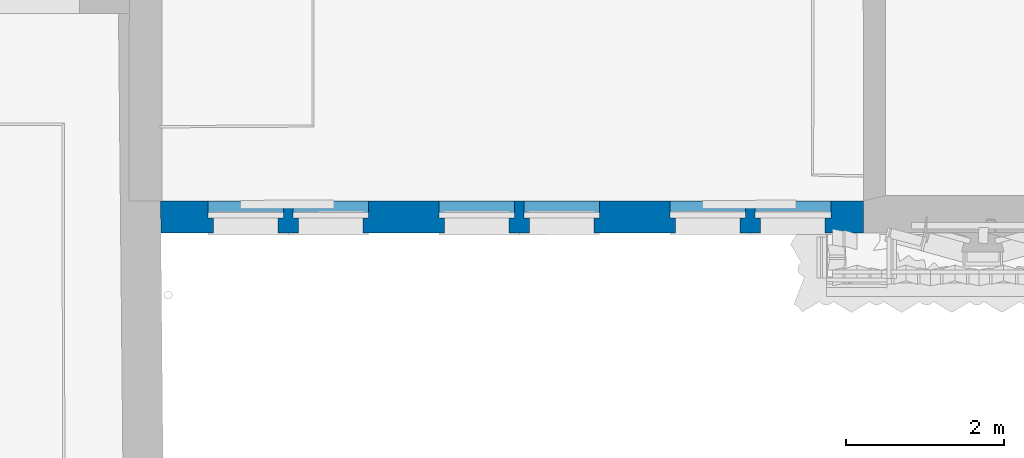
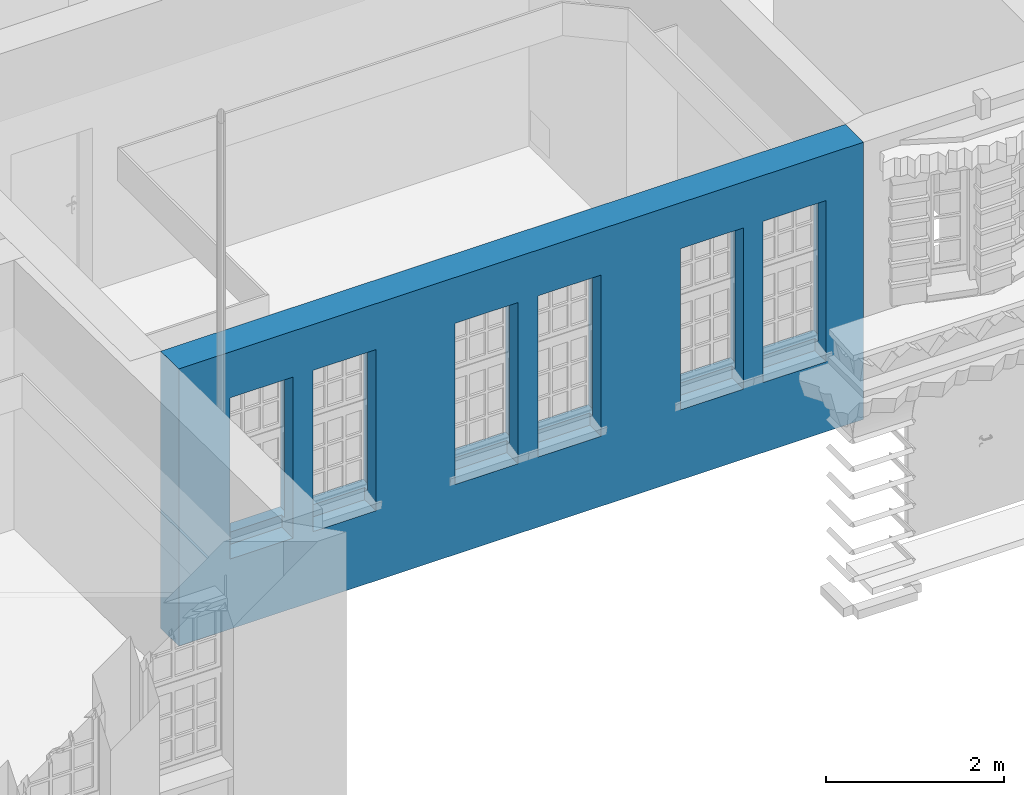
# One storey, part 19 of 158: 1 wall, 9 openings.
"""IFC2X3 building model written with IfcOpenShell, lengths in metres."""

from ifc_helpers import new_model, entity, si_unit, converted_unit, derived_unit, money_unit, direction, frame, origin_with_axes, origin_2d_with_axis, place, context, subcontext, project, spatial, polyline, rectangle, outline, extrude, material, layer, layer_set, layer_usage, type_object, element, save


model = new_model("IFC2X3")

# Units and contexts
model_context = context("Model", 3, precision=1e-05, world=origin_with_axes(), true_north=direction((0.0, 1.0)))
body_context = subcontext(model_context, "Body", "Model", "MODEL_VIEW")
ifc_project = project(units=[si_unit("LENGTHUNIT", "METRE"), si_unit("AREAUNIT", "SQUARE_METRE"), si_unit("VOLUMEUNIT", "CUBIC_METRE"), converted_unit("PLANEANGLEUNIT", "DEGREE", entity("IfcPlaneAngleMeasure", 0.0174532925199), si_unit("PLANEANGLEUNIT", "RADIAN"), dimensions=[0, 0, 0, 0, 0, 0, 0]), money_unit("EUR"), converted_unit("TIMEUNIT", "Year", entity("IfcTimeMeasure", 31556926.0), si_unit("TIMEUNIT", "SECOND"), dimensions=[0, 0, 1, 0, 0, 0, 0]), si_unit("MASSUNIT", "GRAM", prefix="KILO"), si_unit("THERMODYNAMICTEMPERATUREUNIT", "DEGREE_CELSIUS"), si_unit("LUMINOUSINTENSITYUNIT", "LUMEN"), si_unit("ENERGYUNIT", "JOULE", prefix="MEGA"), derived_unit("THERMALCONDUCTANCEUNIT", [(si_unit("POWERUNIT", "WATT"), 1), (si_unit("LENGTHUNIT", "METRE"), -1), (si_unit("THERMODYNAMICTEMPERATUREUNIT", "KELVIN"), -1)]), derived_unit("SPECIFICHEATCAPACITYUNIT", [(si_unit("ENERGYUNIT", "JOULE"), 1), (si_unit("MASSUNIT", "GRAM", prefix="KILO"), -1), (si_unit("THERMODYNAMICTEMPERATUREUNIT", "KELVIN"), -1)]), derived_unit("MASSDENSITYUNIT", [(si_unit("MASSUNIT", "GRAM", prefix="KILO"), 1), (si_unit("VOLUMEUNIT", "CUBIC_METRE"), -1)])], contexts=[model_context])

# Site, building, storey
site_placement = place(None, origin_with_axes())
site = spatial("IfcSite", under=ifc_project, at=site_placement, Name="Gelände", CompositionType="ELEMENT")
building_placement = place(site_placement, origin_with_axes())
building = spatial("IfcBuilding", under=site, at=building_placement, Name="Gebäude", CompositionType="ELEMENT")
storey_placement = place(building_placement, origin_with_axes())
storey = spatial("IfcBuildingStorey", under=building, at=storey_placement, Name="ERDGESCHOSS", CompositionType="ELEMENT", Elevation=0.0)

# Wall, openings
ifc_material = material(Name="05_ALLGEMEIN - TRAGENDE BAUTEILE")
ifc_layer = layer(ifc_material, 0.405, ventilated="UNKNOWN")
ifc_layer_set = layer_set([ifc_layer], Name="05_ALLGEMEIN - TRAGENDE BAUTEILE 0.405")
ifc_layer_usage = layer_usage(ifc_layer_set, "AXIS2", "NEGATIVE", 0.405)
wall_type = type_object("IfcWallType", Name="05_ALLGEMEIN - TRAGENDE BAUTEILE 405", PredefinedType="ELEMENTEDWALL")
wall_placement = place(storey_placement, frame((-17.7913715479, 9.99397282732, -0.21), z_axis=(0.0, 0.0, 1.0), x_axis=(0.999999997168, 7.52624069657e-05, 0.0)))
wall = element("IfcWallStandardCase", 1, at=wall_placement, inside=storey, type_object=wall_type, material=ifc_layer_usage, Name="Wand-030", ObjectType="ELEMENTEDWALL", context=body_context, shape_type="SweptSolid", body=[
    extrude(outline(polyline([(0.0, 0.0), (8.90085158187, 0.0), (8.90085158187, 0.405), (-0.00390621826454, 0.405), (0.0, 0.0)])), origin_with_axes(), (0.0, 0.0, 1.0), 3.81),
])
opening_1_placement = place(wall_placement, frame((4.52949266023, 0.0, 0.13), z_axis=(0.0, 0.0, 1.0), x_axis=(1.0, 0.0, 0.0)))
element("IfcOpeningElement", 2, at=opening_1_placement, cuts=wall, Name="Fenster-016", ObjectType="Recess", context=body_context, shape_type="SweptSolid", body=[
    extrude(rectangle(XDim=2.10960808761, YDim=0.982873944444, at=origin_2d_with_axis()), frame((0.0, 0.271136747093, 0.491436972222), z_axis=(0.0, -1.0, 0.0), x_axis=(1.0, 0.0, 0.0)), (0.0, 0.0, -1.0), 0.538863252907),
])
opening_2_placement = place(wall_placement, frame((1.59805779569, 0.0, 0.13), z_axis=(0.0, 0.0, 1.0), x_axis=(1.0, 0.0, 0.0)))
element("IfcOpeningElement", 3, at=opening_2_placement, cuts=wall, Name="Fenster-016", ObjectType="Recess", context=body_context, shape_type="SweptSolid", body=[
    extrude(rectangle(XDim=2.10960808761, YDim=0.982873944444, at=origin_2d_with_axis()), frame((0.0, 0.271136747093, 0.491436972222), z_axis=(0.0, -1.0, 0.0), x_axis=(1.0, 0.0, 0.0)), (0.0, 0.0, -1.0), 0.538863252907),
])
opening_3_placement = place(wall_placement, frame((7.46257531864, 0.0, 0.13), z_axis=(0.0, 0.0, 1.0), x_axis=(1.0, 0.0, 0.0)))
element("IfcOpeningElement", 4, at=opening_3_placement, cuts=wall, Name="Fenster-016", ObjectType="Recess", context=body_context, shape_type="SweptSolid", body=[
    extrude(rectangle(XDim=2.10488424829, YDim=0.982873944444, at=origin_2d_with_axis()), frame((0.0, 0.271136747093, 0.491436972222), z_axis=(0.0, -1.0, 0.0), x_axis=(1.0, 0.0, 0.0)), (0.0, 0.0, -1.0), 0.538863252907),
])
opening_4_placement = place(wall_placement, frame((8.00687162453, 0.0, 1.1302125), z_axis=(0.0, 0.0, 1.0), x_axis=(1.0, 0.0, 0.0)))
element("IfcOpeningElement", 5, at=opening_4_placement, cuts=wall, Name="Fenster-015", context=body_context, shape_type="SweptSolid", body=[
    extrude(rectangle(XDim=0.96, YDim=2.118657, at=origin_2d_with_axis()), frame((0.0, 0.19, 1.0593285), z_axis=(0.0, 1.0, 0.0), x_axis=(-1.0, 0.0, 0.0)), (0.0, 0.0, 1.0), 0.62),
    extrude(rectangle(XDim=0.82, YDim=2.048657, at=origin_2d_with_axis()), frame((0.0, 0.19, 1.0243285), z_axis=(0.0, -1.0, 0.0), x_axis=(-1.0, 0.0, 0.0)), (0.0, 0.0, 1.0), 0.595),
    extrude(rectangle(XDim=0.82, YDim=0.167317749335, at=origin_2d_with_axis()), frame((0.0, 0.251042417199, -0.0836588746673), z_axis=(0.0, -1.0, 0.0), x_axis=(-1.0, 0.0, 0.0)), (0.0, 0.0, 1.0), 0.466042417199),
])
opening_5_placement = place(wall_placement, frame((6.92935135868, 0.0, 1.1302125), z_axis=(0.0, 0.0, 1.0), x_axis=(1.0, 0.0, 0.0)))
element("IfcOpeningElement", 6, at=opening_5_placement, cuts=wall, Name="Fenster-015", context=body_context, shape_type="SweptSolid", body=[
    extrude(rectangle(XDim=0.96, YDim=2.118657, at=origin_2d_with_axis()), frame((0.0, 0.19, 1.0593285), z_axis=(0.0, 1.0, 0.0), x_axis=(-1.0, 0.0, 0.0)), (0.0, 0.0, 1.0), 0.62),
    extrude(rectangle(XDim=0.82, YDim=2.048657, at=origin_2d_with_axis()), frame((0.0, 0.19, 1.0243285), z_axis=(0.0, -1.0, 0.0), x_axis=(-1.0, 0.0, 0.0)), (0.0, 0.0, 1.0), 0.595),
    extrude(rectangle(XDim=0.82, YDim=0.167317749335, at=origin_2d_with_axis()), frame((0.0, 0.251042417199, -0.0836588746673), z_axis=(0.0, -1.0, 0.0), x_axis=(-1.0, 0.0, 0.0)), (0.0, 0.0, 1.0), 0.466042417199),
])
opening_6_placement = place(wall_placement, frame((5.07817990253, 0.0, 1.1302125), z_axis=(0.0, 0.0, 1.0), x_axis=(1.0, 0.0, 0.0)))
element("IfcOpeningElement", 7, at=opening_6_placement, cuts=wall, Name="Fenster-015", context=body_context, shape_type="SweptSolid", body=[
    extrude(rectangle(XDim=0.96, YDim=2.118657, at=origin_2d_with_axis()), frame((0.0, 0.19, 1.0593285), z_axis=(0.0, 1.0, 0.0), x_axis=(-1.0, 0.0, 0.0)), (0.0, 0.0, 1.0), 0.62),
    extrude(rectangle(XDim=0.82, YDim=2.048657, at=origin_2d_with_axis()), frame((0.0, 0.19, 1.0243285), z_axis=(0.0, -1.0, 0.0), x_axis=(-1.0, 0.0, 0.0)), (0.0, 0.0, 1.0), 0.595),
    extrude(rectangle(XDim=0.82, YDim=0.167317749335, at=origin_2d_with_axis()), frame((0.0, 0.251042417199, -0.0836588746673), z_axis=(0.0, -1.0, 0.0), x_axis=(-1.0, 0.0, 0.0)), (0.0, 0.0, 1.0), 0.466042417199),
])
opening_7_placement = place(wall_placement, frame((4.00065963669, 0.0, 1.1302125), z_axis=(0.0, 0.0, 1.0), x_axis=(1.0, 0.0, 0.0)))
element("IfcOpeningElement", 8, at=opening_7_placement, cuts=wall, Name="Fenster-015", context=body_context, shape_type="SweptSolid", body=[
    extrude(rectangle(XDim=0.96, YDim=2.118657, at=origin_2d_with_axis()), frame((0.0, 0.19, 1.0593285), z_axis=(0.0, 1.0, 0.0), x_axis=(-1.0, 0.0, 0.0)), (0.0, 0.0, 1.0), 0.62),
    extrude(rectangle(XDim=0.82, YDim=2.048657, at=origin_2d_with_axis()), frame((0.0, 0.19, 1.0243285), z_axis=(0.0, -1.0, 0.0), x_axis=(-1.0, 0.0, 0.0)), (0.0, 0.0, 1.0), 0.595),
    extrude(rectangle(XDim=0.82, YDim=0.167317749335, at=origin_2d_with_axis()), frame((0.0, 0.251042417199, -0.0836588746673), z_axis=(0.0, -1.0, 0.0), x_axis=(-1.0, 0.0, 0.0)), (0.0, 0.0, 1.0), 0.466042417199),
])
opening_8_placement = place(wall_placement, frame((2.15187055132, 0.0, 1.1302125), z_axis=(0.0, 0.0, 1.0), x_axis=(1.0, 0.0, 0.0)))
element("IfcOpeningElement", 9, at=opening_8_placement, cuts=wall, Name="Fenster-015", context=body_context, shape_type="SweptSolid", body=[
    extrude(rectangle(XDim=0.96, YDim=2.118657, at=origin_2d_with_axis()), frame((0.0, 0.19, 1.0593285), z_axis=(0.0, 1.0, 0.0), x_axis=(-1.0, 0.0, 0.0)), (0.0, 0.0, 1.0), 0.62),
    extrude(rectangle(XDim=0.82, YDim=2.048657, at=origin_2d_with_axis()), frame((0.0, 0.19, 1.0243285), z_axis=(0.0, -1.0, 0.0), x_axis=(-1.0, 0.0, 0.0)), (0.0, 0.0, 1.0), 0.595),
    extrude(rectangle(XDim=0.82, YDim=0.167317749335, at=origin_2d_with_axis()), frame((0.0, 0.251042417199, -0.0836588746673), z_axis=(0.0, -1.0, 0.0), x_axis=(-1.0, 0.0, 0.0)), (0.0, 0.0, 1.0), 0.466042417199),
])
opening_9_placement = place(wall_placement, frame((1.07435028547, 0.0, 1.1302125), z_axis=(0.0, 0.0, 1.0), x_axis=(1.0, 0.0, 0.0)))
element("IfcOpeningElement", 10, at=opening_9_placement, cuts=wall, Name="Fenster-015", context=body_context, shape_type="SweptSolid", body=[
    extrude(rectangle(XDim=0.96, YDim=2.118657, at=origin_2d_with_axis()), frame((0.0, 0.19, 1.0593285), z_axis=(0.0, 1.0, 0.0), x_axis=(-1.0, 0.0, 0.0)), (0.0, 0.0, 1.0), 0.62),
    extrude(rectangle(XDim=0.82, YDim=2.048657, at=origin_2d_with_axis()), frame((0.0, 0.19, 1.0243285), z_axis=(0.0, -1.0, 0.0), x_axis=(-1.0, 0.0, 0.0)), (0.0, 0.0, 1.0), 0.595),
    extrude(rectangle(XDim=0.82, YDim=0.167317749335, at=origin_2d_with_axis()), frame((0.0, 0.251042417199, -0.0836588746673), z_axis=(0.0, -1.0, 0.0), x_axis=(-1.0, 0.0, 0.0)), (0.0, 0.0, 1.0), 0.466042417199),
])

save(model, "model.ifc")
